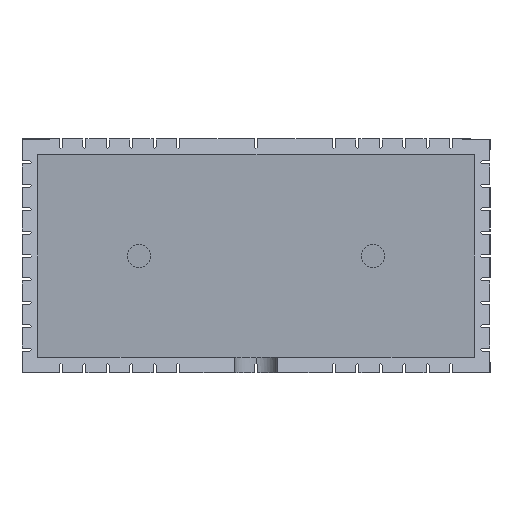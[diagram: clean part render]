
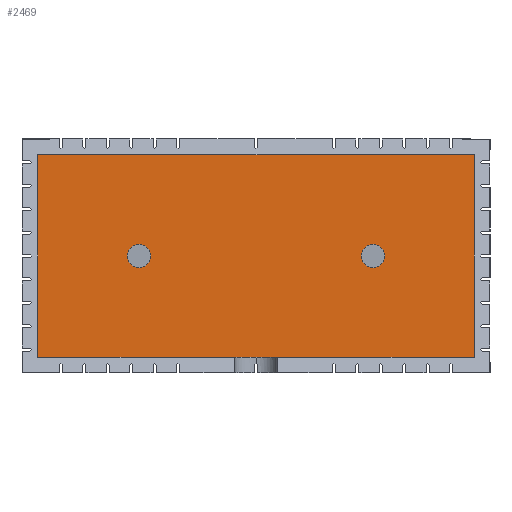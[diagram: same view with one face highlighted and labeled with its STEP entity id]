
A CAD part, left-side view. The second image highlights one B-rep face of the part: STEP entity #2469.
In plain terms, the highlighted planar face has unit normal (-1, 0, 0).
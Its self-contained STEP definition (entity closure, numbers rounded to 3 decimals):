
#202 = DIRECTION ( 'NONE',  ( 0., 0., -1. ) ) ;
#249 = CARTESIAN_POINT ( 'NONE',  ( -93.834, 28., -13. ) ) ;
#307 = DIRECTION ( 'NONE',  ( 0., 0., -1. ) ) ;
#457 = CARTESIAN_POINT ( 'NONE',  ( -93.834, 15., 0. ) ) ;
#603 = DIRECTION ( 'NONE',  ( 0., 0., -1. ) ) ;
#744 = DIRECTION ( 'NONE',  ( 1., 0., 0. ) ) ;
#844 = ORIENTED_EDGE ( 'NONE', *, *, #5230, .T. ) ;
#966 = VERTEX_POINT ( 'NONE', #6177 ) ;
#1040 = CARTESIAN_POINT ( 'NONE',  ( -93.834, -28., 0. ) ) ;
#1053 = CARTESIAN_POINT ( 'NONE',  ( -93.834, 28., -13. ) ) ;
#1142 = CIRCLE ( 'NONE', #2771, 1.5 ) ;
#1259 = ORIENTED_EDGE ( 'NONE', *, *, #3903, .F. ) ;
#1286 = CARTESIAN_POINT ( 'NONE',  ( -93.834, 0., 0. ) ) ;
#1368 = DIRECTION ( 'NONE',  ( 0., -1., 0. ) ) ;
#1433 = EDGE_CURVE ( 'NONE', #966, #4630, #4770, .T. ) ;
#1597 = AXIS2_PLACEMENT_3D ( 'NONE', #4718, #1919, #3243 ) ;
#1782 = DIRECTION ( 'NONE',  ( 0., 0., -1. ) ) ;
#1836 = FACE_BOUND ( 'NONE', #3278, .T. ) ;
#1841 = VERTEX_POINT ( 'NONE', #1053 ) ;
#1919 = DIRECTION ( 'NONE',  ( -1., 0., 0. ) ) ;
#2250 = ORIENTED_EDGE ( 'NONE', *, *, #3727, .T. ) ;
#2469 = ADVANCED_FACE ( 'NONE', ( #5181, #1836, #4073 ), #2823, .F. ) ;
#2489 = CARTESIAN_POINT ( 'NONE',  ( -93.834, -15., 0. ) ) ;
#2602 = CARTESIAN_POINT ( 'NONE',  ( -93.834, -15., 1.5 ) ) ;
#2674 = DIRECTION ( 'NONE',  ( 0., 0., -1. ) ) ;
#2687 = VERTEX_POINT ( 'NONE', #2602 ) ;
#2715 = VERTEX_POINT ( 'NONE', #4960 ) ;
#2771 = AXIS2_PLACEMENT_3D ( 'NONE', #3658, #5834, #4659 ) ;
#2823 = PLANE ( 'NONE',  #4818 ) ;
#2971 = CARTESIAN_POINT ( 'NONE',  ( -93.834, 0., 13. ) ) ;
#3243 = DIRECTION ( 'NONE',  ( 0., 0., -1. ) ) ;
#3278 = EDGE_LOOP ( 'NONE', ( #6756, #4435 ) ) ;
#3343 = EDGE_CURVE ( 'NONE', #3801, #6052, #3933, .T. ) ;
#3379 = LINE ( 'NONE', #1040, #6821 ) ;
#3434 = CARTESIAN_POINT ( 'NONE',  ( -93.834, 28., 13. ) ) ;
#3565 = CARTESIAN_POINT ( 'NONE',  ( -93.834, -28., -13. ) ) ;
#3658 = CARTESIAN_POINT ( 'NONE',  ( -93.834, -15., 0. ) ) ;
#3690 = VECTOR ( 'NONE', #1782, 1000. ) ;
#3708 = CARTESIAN_POINT ( 'NONE',  ( -93.834, 15., 1.5 ) ) ;
#3716 = VERTEX_POINT ( 'NONE', #3565 ) ;
#3727 = EDGE_CURVE ( 'NONE', #1841, #3716, #5264, .T. ) ;
#3801 = VERTEX_POINT ( 'NONE', #6476 ) ;
#3903 = EDGE_CURVE ( 'NONE', #2687, #2715, #1142, .T. ) ;
#3933 = CIRCLE ( 'NONE', #1597, 1.5 ) ;
#3965 = EDGE_CURVE ( 'NONE', #2715, #2687, #4896, .T. ) ;
#4073 = FACE_BOUND ( 'NONE', #5617, .T. ) ;
#4435 = ORIENTED_EDGE ( 'NONE', *, *, #4486, .F. ) ;
#4486 = EDGE_CURVE ( 'NONE', #6052, #3801, #6109, .T. ) ;
#4567 = VECTOR ( 'NONE', #6904, 1000. ) ;
#4630 = VERTEX_POINT ( 'NONE', #6717 ) ;
#4659 = DIRECTION ( 'NONE',  ( 0., 0., -1. ) ) ;
#4718 = CARTESIAN_POINT ( 'NONE',  ( -93.834, 15., 0. ) ) ;
#4733 = DIRECTION ( 'NONE',  ( -1., 0., 0. ) ) ;
#4770 = LINE ( 'NONE', #2971, #4567 ) ;
#4818 = AXIS2_PLACEMENT_3D ( 'NONE', #1286, #744, #202 ) ;
#4896 = CIRCLE ( 'NONE', #5242, 1.5 ) ;
#4960 = CARTESIAN_POINT ( 'NONE',  ( -93.834, -15., -1.5 ) ) ;
#5181 = FACE_OUTER_BOUND ( 'NONE', #6637, .T. ) ;
#5230 = EDGE_CURVE ( 'NONE', #4630, #1841, #5745, .T. ) ;
#5242 = AXIS2_PLACEMENT_3D ( 'NONE', #2489, #4733, #307 ) ;
#5264 = LINE ( 'NONE', #249, #6533 ) ;
#5617 = EDGE_LOOP ( 'NONE', ( #6984, #1259 ) ) ;
#5745 = LINE ( 'NONE', #3434, #3690 ) ;
#5834 = DIRECTION ( 'NONE',  ( -1., 0., 0. ) ) ;
#5915 = DIRECTION ( 'NONE',  ( -1., 0., 0. ) ) ;
#6052 = VERTEX_POINT ( 'NONE', #3708 ) ;
#6109 = CIRCLE ( 'NONE', #7056, 1.5 ) ;
#6132 = EDGE_CURVE ( 'NONE', #966, #3716, #3379, .T. ) ;
#6177 = CARTESIAN_POINT ( 'NONE',  ( -93.834, -28., 13. ) ) ;
#6414 = ORIENTED_EDGE ( 'NONE', *, *, #1433, .T. ) ;
#6476 = CARTESIAN_POINT ( 'NONE',  ( -93.834, 15., -1.5 ) ) ;
#6533 = VECTOR ( 'NONE', #1368, 1000. ) ;
#6637 = EDGE_LOOP ( 'NONE', ( #2250, #6988, #6414, #844 ) ) ;
#6717 = CARTESIAN_POINT ( 'NONE',  ( -93.834, 28., 13. ) ) ;
#6756 = ORIENTED_EDGE ( 'NONE', *, *, #3343, .F. ) ;
#6821 = VECTOR ( 'NONE', #603, 1000. ) ;
#6904 = DIRECTION ( 'NONE',  ( 0., 1., 0. ) ) ;
#6984 = ORIENTED_EDGE ( 'NONE', *, *, #3965, .F. ) ;
#6988 = ORIENTED_EDGE ( 'NONE', *, *, #6132, .F. ) ;
#7056 = AXIS2_PLACEMENT_3D ( 'NONE', #457, #5915, #2674 ) ;
